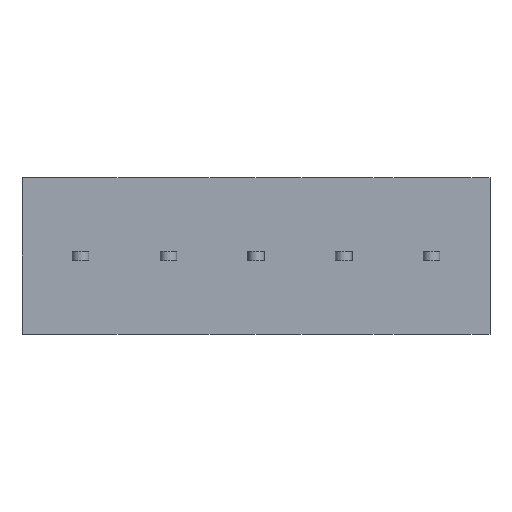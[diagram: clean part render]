
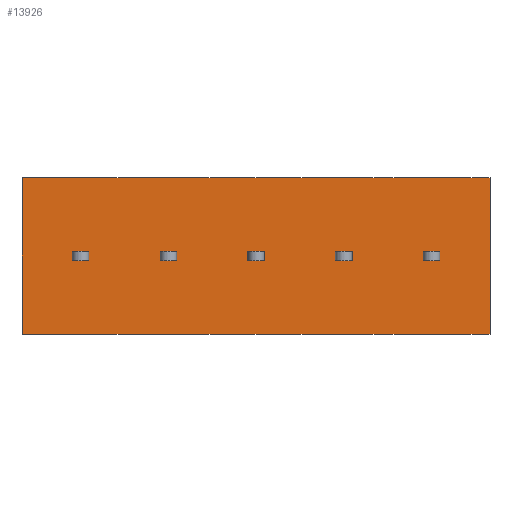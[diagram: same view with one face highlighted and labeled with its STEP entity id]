
A CAD part, front view. The second image highlights one B-rep face of the part: STEP entity #13926.
In plain terms, the highlighted planar face has unit normal (0, -1, 0).
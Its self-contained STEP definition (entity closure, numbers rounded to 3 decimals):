
#932=VERTEX_POINT('',#18698);
#933=VERTEX_POINT('',#18699);
#936=VERTEX_POINT('',#18707);
#964=VERTEX_POINT('',#18778);
#1088=VERTEX_POINT('',#19179);
#1089=VERTEX_POINT('',#19180);
#1092=VERTEX_POINT('',#19188);
#1104=VERTEX_POINT('',#19226);
#1152=VERTEX_POINT('',#19377);
#1153=VERTEX_POINT('',#19378);
#1154=VERTEX_POINT('',#19383);
#1155=VERTEX_POINT('',#19387);
#1172=VERTEX_POINT('',#19438);
#1173=VERTEX_POINT('',#19439);
#1193=VERTEX_POINT('',#19483);
#1194=VERTEX_POINT('',#19484);
#1195=VERTEX_POINT('',#19486);
#1196=VERTEX_POINT('',#19488);
#1197=VERTEX_POINT('',#19491);
#1198=VERTEX_POINT('',#19492);
#1199=VERTEX_POINT('',#19494);
#1200=VERTEX_POINT('',#19496);
#1201=VERTEX_POINT('',#19499);
#1202=VERTEX_POINT('',#19500);
#2381=VECTOR('',#15651,1.);
#2384=VECTOR('',#15657,1.);
#2410=VECTOR('',#15712,1.);
#2412=VECTOR('',#15715,1.);
#2528=VECTOR('',#16021,1.);
#2531=VECTOR('',#16027,1.);
#2543=VECTOR('',#16063,1.);
#2545=VECTOR('',#16066,1.);
#2604=VECTOR('',#16182,1.);
#2607=VECTOR('',#16186,1.);
#2609=VECTOR('',#16189,1.);
#2611=VECTOR('',#16192,1.);
#2628=VECTOR('',#16232,1.);
#2651=VECTOR('',#16256,1.);
#2652=VECTOR('',#16257,1.);
#2653=VECTOR('',#16258,1.);
#2654=VECTOR('',#16259,1.);
#2655=VECTOR('',#16260,1.);
#2656=VECTOR('',#16261,1.);
#2657=VECTOR('',#16262,1.);
#2658=VECTOR('',#16263,1.);
#2659=VECTOR('',#16264,1.);
#2660=VECTOR('',#16265,1.);
#2661=VECTOR('',#16266,1.);
#3937=LINE('',#18697,#2381);
#3940=LINE('',#18706,#2384);
#3966=LINE('',#18777,#2410);
#3968=LINE('',#18781,#2412);
#4084=LINE('',#19178,#2528);
#4087=LINE('',#19187,#2531);
#4099=LINE('',#19225,#2543);
#4101=LINE('',#19229,#2545);
#4160=LINE('',#19376,#2604);
#4163=LINE('',#19382,#2607);
#4165=LINE('',#19386,#2609);
#4167=LINE('',#19390,#2611);
#4184=LINE('',#19437,#2628);
#4207=LINE('',#19482,#2651);
#4208=LINE('',#19485,#2652);
#4209=LINE('',#19487,#2653);
#4210=LINE('',#19489,#2654);
#4211=LINE('',#19490,#2655);
#4212=LINE('',#19493,#2656);
#4213=LINE('',#19495,#2657);
#4214=LINE('',#19497,#2658);
#4215=LINE('',#19498,#2659);
#4216=LINE('',#19501,#2660);
#4217=LINE('',#19502,#2661);
#5493=EDGE_CURVE('',#932,#933,#3937,.T.);
#5497=EDGE_CURVE('',#933,#936,#3940,.T.);
#5532=EDGE_CURVE('',#964,#932,#3966,.T.);
#5534=EDGE_CURVE('',#936,#964,#3968,.T.);
#5712=EDGE_CURVE('',#1088,#1089,#4084,.T.);
#5716=EDGE_CURVE('',#1089,#1092,#4087,.T.);
#5735=EDGE_CURVE('',#1104,#1088,#4099,.T.);
#5737=EDGE_CURVE('',#1092,#1104,#4101,.T.);
#5811=EDGE_CURVE('',#1152,#1153,#4160,.T.);
#5814=EDGE_CURVE('',#1154,#1152,#4163,.T.);
#5816=EDGE_CURVE('',#1153,#1155,#4165,.T.);
#5818=EDGE_CURVE('',#1155,#1154,#4167,.T.);
#5841=EDGE_CURVE('',#1172,#1173,#4184,.T.);
#5864=EDGE_CURVE('',#1193,#1194,#4207,.T.);
#5865=EDGE_CURVE('',#1194,#1195,#4208,.T.);
#5866=EDGE_CURVE('',#1195,#1196,#4209,.T.);
#5867=EDGE_CURVE('',#1196,#1193,#4210,.T.);
#5868=EDGE_CURVE('',#1197,#1198,#4211,.T.);
#5869=EDGE_CURVE('',#1198,#1199,#4212,.T.);
#5870=EDGE_CURVE('',#1199,#1200,#4213,.T.);
#5871=EDGE_CURVE('',#1200,#1197,#4214,.T.);
#5872=EDGE_CURVE('',#1201,#1202,#4215,.T.);
#5873=EDGE_CURVE('',#1202,#1173,#4216,.T.);
#5874=EDGE_CURVE('',#1201,#1172,#4217,.T.);
#8277=ORIENTED_EDGE('',*,*,#5864,.T.);
#8278=ORIENTED_EDGE('',*,*,#5865,.T.);
#8279=ORIENTED_EDGE('',*,*,#5866,.T.);
#8280=ORIENTED_EDGE('',*,*,#5867,.T.);
#8281=ORIENTED_EDGE('',*,*,#5493,.T.);
#8282=ORIENTED_EDGE('',*,*,#5497,.T.);
#8283=ORIENTED_EDGE('',*,*,#5534,.T.);
#8284=ORIENTED_EDGE('',*,*,#5532,.T.);
#8285=ORIENTED_EDGE('',*,*,#5712,.T.);
#8286=ORIENTED_EDGE('',*,*,#5716,.T.);
#8287=ORIENTED_EDGE('',*,*,#5737,.T.);
#8288=ORIENTED_EDGE('',*,*,#5735,.T.);
#8289=ORIENTED_EDGE('',*,*,#5868,.T.);
#8290=ORIENTED_EDGE('',*,*,#5869,.T.);
#8291=ORIENTED_EDGE('',*,*,#5870,.T.);
#8292=ORIENTED_EDGE('',*,*,#5871,.T.);
#8293=ORIENTED_EDGE('',*,*,#5811,.F.);
#8294=ORIENTED_EDGE('',*,*,#5814,.F.);
#8295=ORIENTED_EDGE('',*,*,#5818,.F.);
#8296=ORIENTED_EDGE('',*,*,#5816,.F.);
#8297=ORIENTED_EDGE('',*,*,#5872,.T.);
#8298=ORIENTED_EDGE('',*,*,#5873,.T.);
#8299=ORIENTED_EDGE('',*,*,#5841,.F.);
#8300=ORIENTED_EDGE('',*,*,#5874,.F.);
#12110=EDGE_LOOP('',(#8277,#8278,#8279,#8280));
#12111=EDGE_LOOP('',(#8281,#8282,#8283,#8284));
#12112=EDGE_LOOP('',(#8285,#8286,#8287,#8288));
#12113=EDGE_LOOP('',(#8289,#8290,#8291,#8292));
#12114=EDGE_LOOP('',(#8293,#8294,#8295,#8296));
#12115=EDGE_LOOP('',(#8297,#8298,#8299,#8300));
#13024=FACE_BOUND('',#12110,.T.);
#13025=FACE_BOUND('',#12111,.T.);
#13026=FACE_BOUND('',#12112,.T.);
#13027=FACE_BOUND('',#12113,.T.);
#13028=FACE_BOUND('',#12114,.T.);
#13029=FACE_BOUND('',#12115,.T.);
#13926=ADVANCED_FACE('',(#13024,#13025,#13026,#13027,#13028,#13029),#24263,
 .T.);
#14839=AXIS2_PLACEMENT_3D('',#19481,#16255,$);
#15651=DIRECTION('',(1.,0.,0.));
#15657=DIRECTION('',(0.,0.,-1.));
#15712=DIRECTION('',(0.,0.,1.));
#15715=DIRECTION('',(-1.,0.,0.));
#16021=DIRECTION('',(1.,0.,0.));
#16027=DIRECTION('',(0.,0.,-1.));
#16063=DIRECTION('',(0.,0.,1.));
#16066=DIRECTION('',(-1.,0.,0.));
#16182=DIRECTION('',(-1.,0.,0.));
#16186=DIRECTION('',(0.,0.,1.));
#16189=DIRECTION('',(0.,0.,-1.));
#16192=DIRECTION('',(1.,0.,0.));
#16232=DIRECTION('',(1.,0.,0.));
#16255=DIRECTION('',(0.,-1.,0.));
#16256=DIRECTION('',(1.,0.,0.));
#16257=DIRECTION('',(0.,0.,-1.));
#16258=DIRECTION('',(-1.,0.,0.));
#16259=DIRECTION('',(0.,0.,1.));
#16260=DIRECTION('',(1.,0.,0.));
#16261=DIRECTION('',(0.,0.,-1.));
#16262=DIRECTION('',(-1.,0.,0.));
#16263=DIRECTION('',(0.,0.,1.));
#16264=DIRECTION('',(1.,0.,0.));
#16265=DIRECTION('',(0.,0.,1.));
#16266=DIRECTION('',(0.,0.,1.));
#18697=CARTESIAN_POINT('',(16.525,0.,0.5));
#18698=CARTESIAN_POINT('',(33.05,0.,0.5));
#18699=CARTESIAN_POINT('',(34.85,0.,0.5));
#18706=CARTESIAN_POINT('',(34.85,0.,1.75));
#18707=CARTESIAN_POINT('',(34.85,0.,-0.5));
#18777=CARTESIAN_POINT('',(33.05,0.,1.75));
#18778=CARTESIAN_POINT('',(33.05,0.,-0.5));
#18781=CARTESIAN_POINT('',(16.525,0.,-0.5));
#19178=CARTESIAN_POINT('',(11.775,0.,0.5));
#19179=CARTESIAN_POINT('',(23.55,0.,0.5));
#19180=CARTESIAN_POINT('',(25.35,0.,0.5));
#19187=CARTESIAN_POINT('',(25.35,0.,1.75));
#19188=CARTESIAN_POINT('',(25.35,0.,-0.5));
#19225=CARTESIAN_POINT('',(23.55,0.,1.75));
#19226=CARTESIAN_POINT('',(23.55,0.,-0.5));
#19229=CARTESIAN_POINT('',(11.775,0.,-0.5));
#19376=CARTESIAN_POINT('',(3.425,0.,0.5));
#19377=CARTESIAN_POINT('',(6.35,0.,0.5));
#19378=CARTESIAN_POINT('',(4.55,0.,0.5));
#19382=CARTESIAN_POINT('',(6.35,0.,1.75));
#19383=CARTESIAN_POINT('',(6.35,0.,-0.5));
#19386=CARTESIAN_POINT('',(4.55,0.,1.75));
#19387=CARTESIAN_POINT('',(4.55,0.,-0.5));
#19390=CARTESIAN_POINT('',(3.425,0.,-0.5));
#19437=CARTESIAN_POINT('',(-0.9,0.,8.5));
#19438=CARTESIAN_POINT('',(-0.9,0.,8.5));
#19439=CARTESIAN_POINT('',(49.8,0.,8.5));
#19481=CARTESIAN_POINT('',(-0.9,0.,0.));
#19482=CARTESIAN_POINT('',(21.275,0.,0.5));
#19483=CARTESIAN_POINT('',(42.55,0.,0.5));
#19484=CARTESIAN_POINT('',(44.35,0.,0.5));
#19485=CARTESIAN_POINT('',(44.35,0.,1.75));
#19486=CARTESIAN_POINT('',(44.35,0.,-0.5));
#19487=CARTESIAN_POINT('',(21.275,0.,-0.5));
#19488=CARTESIAN_POINT('',(42.55,0.,-0.5));
#19489=CARTESIAN_POINT('',(42.55,0.,1.75));
#19490=CARTESIAN_POINT('',(7.025,0.,0.5));
#19491=CARTESIAN_POINT('',(14.05,0.,0.5));
#19492=CARTESIAN_POINT('',(15.85,0.,0.5));
#19493=CARTESIAN_POINT('',(15.85,0.,1.75));
#19494=CARTESIAN_POINT('',(15.85,0.,-0.5));
#19495=CARTESIAN_POINT('',(7.025,0.,-0.5));
#19496=CARTESIAN_POINT('',(14.05,0.,-0.5));
#19497=CARTESIAN_POINT('',(14.05,0.,1.75));
#19498=CARTESIAN_POINT('',(-0.9,0.,-8.5));
#19499=CARTESIAN_POINT('',(-0.9,0.,-8.5));
#19500=CARTESIAN_POINT('',(49.8,0.,-8.5));
#19501=CARTESIAN_POINT('',(49.8,0.,-8.5));
#19502=CARTESIAN_POINT('',(-0.9,0.,-8.5));
#24263=PLANE('',#14839);
